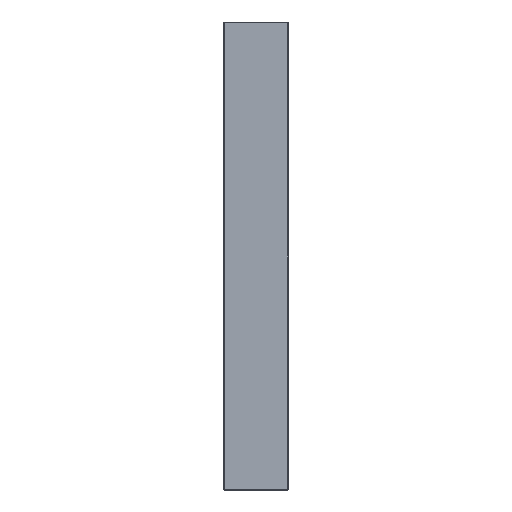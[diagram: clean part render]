
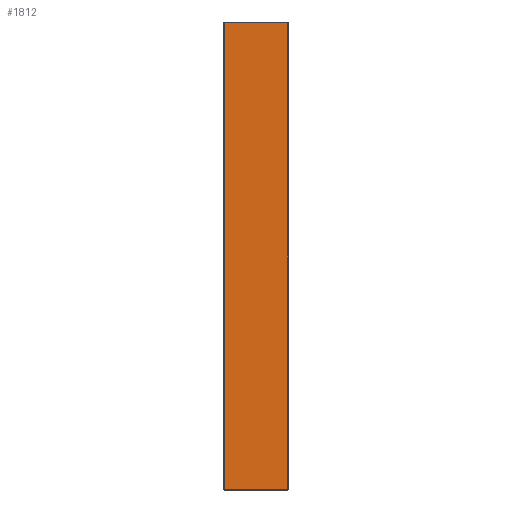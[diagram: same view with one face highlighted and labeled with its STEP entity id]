
A CAD part, left-side view. The second image highlights one B-rep face of the part: STEP entity #1812.
In plain terms, the highlighted planar face has unit normal (-1, 0, 0).
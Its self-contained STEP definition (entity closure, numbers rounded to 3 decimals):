
#113 = CARTESIAN_POINT ( 'NONE',  ( -198., 1., -272. ) ) ;
#226 = VECTOR ( 'NONE', #1079, 1000. ) ;
#241 = CARTESIAN_POINT ( 'NONE',  ( -198., 1., 272. ) ) ;
#309 = VERTEX_POINT ( 'NONE', #1836 ) ;
#310 = EDGE_CURVE ( 'NONE', #596, #1496, #511, .T. ) ;
#396 = DIRECTION ( 'NONE',  ( 1., 0., 0. ) ) ;
#436 = CARTESIAN_POINT ( 'NONE',  ( -198., 76., -272. ) ) ;
#479 = EDGE_CURVE ( 'NONE', #1496, #1321, #1843, .T. ) ;
#511 = LINE ( 'NONE', #644, #610 ) ;
#553 = CARTESIAN_POINT ( 'NONE',  ( -198., 76., 273. ) ) ;
#596 = VERTEX_POINT ( 'NONE', #113 ) ;
#600 = FACE_OUTER_BOUND ( 'NONE', #747, .T. ) ;
#610 = VECTOR ( 'NONE', #719, 1000. ) ;
#644 = CARTESIAN_POINT ( 'NONE',  ( -198., 1., 273. ) ) ;
#646 = DIRECTION ( 'NONE',  ( 0., 0., -1. ) ) ;
#687 = PLANE ( 'NONE',  #1217 ) ;
#719 = DIRECTION ( 'NONE',  ( 0., 0., 1. ) ) ;
#747 = EDGE_LOOP ( 'NONE', ( #1933, #1136, #1630, #1213 ) ) ;
#766 = EDGE_CURVE ( 'NONE', #309, #596, #798, .T. ) ;
#798 = LINE ( 'NONE', #436, #1548 ) ;
#826 = DIRECTION ( 'NONE',  ( 0., 0., -1. ) ) ;
#1007 = CARTESIAN_POINT ( 'NONE',  ( -198., 76., 272. ) ) ;
#1046 = CARTESIAN_POINT ( 'NONE',  ( -198., 75., 272. ) ) ;
#1079 = DIRECTION ( 'NONE',  ( 0., 1., 0. ) ) ;
#1119 = DIRECTION ( 'NONE',  ( 0., -1., 0. ) ) ;
#1136 = ORIENTED_EDGE ( 'NONE', *, *, #1726, .T. ) ;
#1213 = ORIENTED_EDGE ( 'NONE', *, *, #310, .T. ) ;
#1217 = AXIS2_PLACEMENT_3D ( 'NONE', #553, #396, #826 ) ;
#1321 = VERTEX_POINT ( 'NONE', #1046 ) ;
#1496 = VERTEX_POINT ( 'NONE', #241 ) ;
#1518 = VECTOR ( 'NONE', #646, 1000. ) ;
#1548 = VECTOR ( 'NONE', #1119, 1000. ) ;
#1630 = ORIENTED_EDGE ( 'NONE', *, *, #766, .T. ) ;
#1726 = EDGE_CURVE ( 'NONE', #1321, #309, #1908, .T. ) ;
#1812 = ADVANCED_FACE ( 'NONE', ( #600 ), #687, .F. ) ;
#1829 = CARTESIAN_POINT ( 'NONE',  ( -198., 75., 273. ) ) ;
#1836 = CARTESIAN_POINT ( 'NONE',  ( -198., 75., -272. ) ) ;
#1843 = LINE ( 'NONE', #1007, #226 ) ;
#1908 = LINE ( 'NONE', #1829, #1518 ) ;
#1933 = ORIENTED_EDGE ( 'NONE', *, *, #479, .T. ) ;
